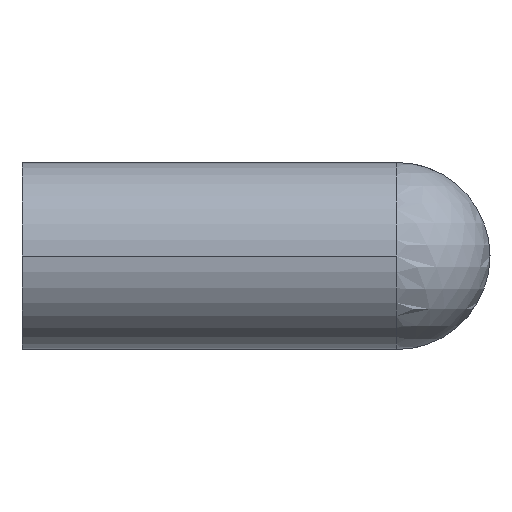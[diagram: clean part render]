
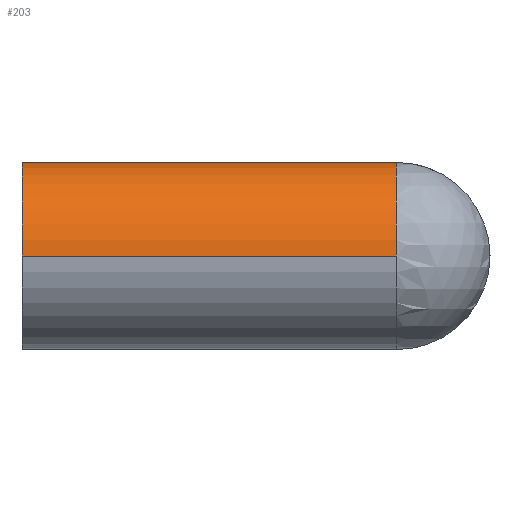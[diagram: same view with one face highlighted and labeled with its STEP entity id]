
A CAD part, left-side view. The second image highlights one B-rep face of the part: STEP entity #203.
In plain terms, the highlighted cylindrical face has radius 6 mm (diameter 12 mm), a partial arc.
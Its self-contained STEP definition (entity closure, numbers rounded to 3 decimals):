
#141 = EDGE_CURVE( '', #179, #183, #301, .T. );
#147 = VERTEX_POINT( '', #307 );
#151 = VERTEX_POINT( '', #312 );
#155 = EDGE_CURVE( '', #147, #179, #316, .T. );
#163 = EDGE_CURVE( '', #147, #219, #324, .T. );
#177 = EDGE_CURVE( '', #151, #183, #342, .T. );
#179 = VERTEX_POINT( '', #344 );
#183 = VERTEX_POINT( '', #348 );
#185 = EDGE_CURVE( '', #219, #151, #350, .T. );
#203 = ADVANCED_FACE( '', ( #371 ), #372, .T. );
#219 = VERTEX_POINT( '', #391 );
#301 = ELLIPSE( '', #481, 8.485, 6. );
#307 = CARTESIAN_POINT( '', ( -6., -24., 0. ) );
#312 = CARTESIAN_POINT( '', ( 6., 0., 0. ) );
#316 = CIRCLE( '', #499, 6. );
#324 = LINE( '', #509, #510 );
#342 = LINE( '', #532, #533 );
#344 = CARTESIAN_POINT( '', ( 0., -24., 6. ) );
#348 = CARTESIAN_POINT( '', ( 6., -18., 0. ) );
#350 = CIRCLE( '', #543, 6. );
#371 = FACE_OUTER_BOUND( '', #567, .T. );
#372 = CYLINDRICAL_SURFACE( '', #568, 6. );
#391 = CARTESIAN_POINT( '', ( -6., 0., 0. ) );
#481 = AXIS2_PLACEMENT_3D( '', #679, #680, #681 );
#499 = AXIS2_PLACEMENT_3D( '', #697, #698, #699 );
#509 = CARTESIAN_POINT( '', ( -6., 0., 0. ) );
#510 = VECTOR( '', #707, 1. );
#532 = CARTESIAN_POINT( '', ( 6., 0., 0. ) );
#533 = VECTOR( '', #742, 1. );
#543 = AXIS2_PLACEMENT_3D( '', #746, #747, #748 );
#567 = EDGE_LOOP( '', ( #770, #771, #772, #773, #774 ) );
#568 = AXIS2_PLACEMENT_3D( '', #775, #776, #777 );
#679 = CARTESIAN_POINT( '', ( 0., -24., 0. ) );
#680 = DIRECTION( '', ( -0.707, 0.707, 0. ) );
#681 = DIRECTION( '', ( 0.707, 0.707, 0. ) );
#697 = CARTESIAN_POINT( '', ( 0., -24., 0. ) );
#698 = DIRECTION( '', ( 0., 1., 0. ) );
#699 = DIRECTION( '', ( 1., 0., 0. ) );
#707 = DIRECTION( '', ( 0., 1., 0. ) );
#742 = DIRECTION( '', ( 0., -1., 0. ) );
#746 = CARTESIAN_POINT( '', ( 0., 0., 0. ) );
#747 = DIRECTION( '', ( 0., 1., 0. ) );
#748 = DIRECTION( '', ( 1., 0., 0. ) );
#770 = ORIENTED_EDGE( '', *, *, #177, .F. );
#771 = ORIENTED_EDGE( '', *, *, #185, .F. );
#772 = ORIENTED_EDGE( '', *, *, #163, .F. );
#773 = ORIENTED_EDGE( '', *, *, #155, .T. );
#774 = ORIENTED_EDGE( '', *, *, #141, .T. );
#775 = CARTESIAN_POINT( '', ( 0., 0., 0. ) );
#776 = DIRECTION( '', ( 0., 1., 0. ) );
#777 = DIRECTION( '', ( 1., 0., 0. ) );
